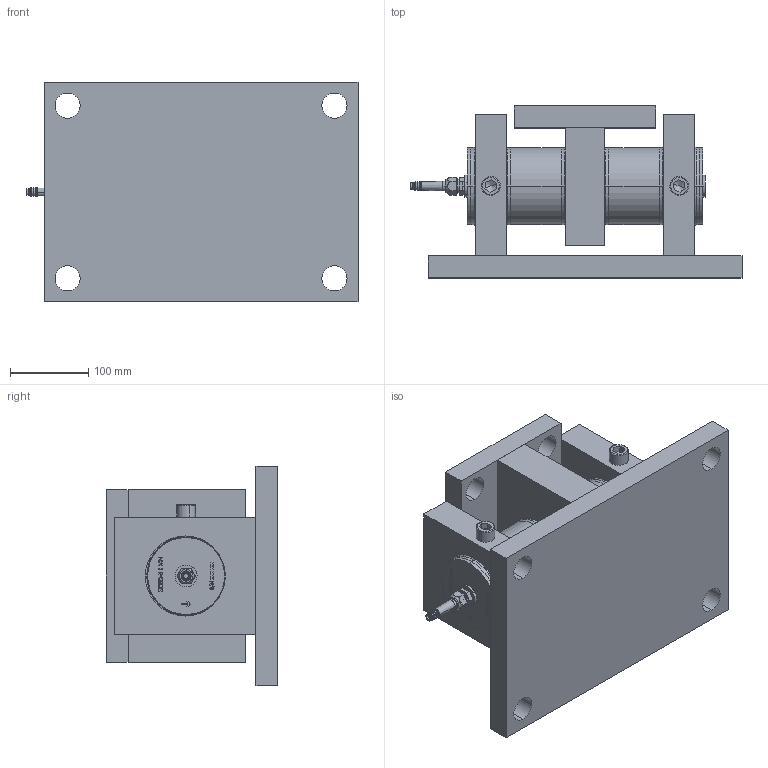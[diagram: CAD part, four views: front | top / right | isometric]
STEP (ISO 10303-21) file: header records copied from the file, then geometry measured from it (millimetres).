
FILE_DESCRIPTION (( 'STEP AP203' ), '1' );
FILE_NAME ('504041r0.STEP', '2018-12-19T07:07:11', ( 'VPG' ), ( 'VPG' ), 'SwSTEP 2.0', 'SolidWorks 2016', '' );
FILE_SCHEMA (( 'CONFIG_CONTROL_DESIGN' ));
Length unit declared in the file: millimetre
Products named in the file (13): top plate 1 MN; yoke 1 MN; ring 1 MN; 504040r0; 504039r0; uni_5931_m16x40-10_9_0; 503951r0; bottom plate 1 MN; 504041r0; M26x1.5 - Pg9 - 6369829; Pg9 - 1009.52 6_2_14; M26x1.5 - Lock - 600490r1; 503957r0
Assembly tree (14 placements, depth 3):
  504041r0
    504039r0
      bottom plate 1 MN
      ring 1 MN  x2
    503957r0
      503951r0
      M26x1.5 - Pg9 - 6369829
      Pg9 - 1009.52 6_2_14
      M26x1.5 - Lock - 600490r1
    504040r0
      top plate 1 MN
      yoke 1 MN
    uni_5931_m16x40-10_9_0  x2
Bounding box: 422.98 x 219 x 280 mm (x, y, z)
Volume: 9015327.3 mm3; surface area: 783996.1 mm2
Topology: 11 solids, 14 shells, 582 faces, 1416 edges, 896 vertices
Faces by surface type: plane 270, cylinder 114, bspline 79, cone 63, torus 56
Entity records: 21041 total; most frequent: CARTESIAN_POINT 6804, ORIENTED_EDGE 2682, DIRECTION 2586, EDGE_CURVE 1341, AXIS2_PLACEMENT_3D 903, VERTEX_POINT 851, LINE 780, VECTOR 780
